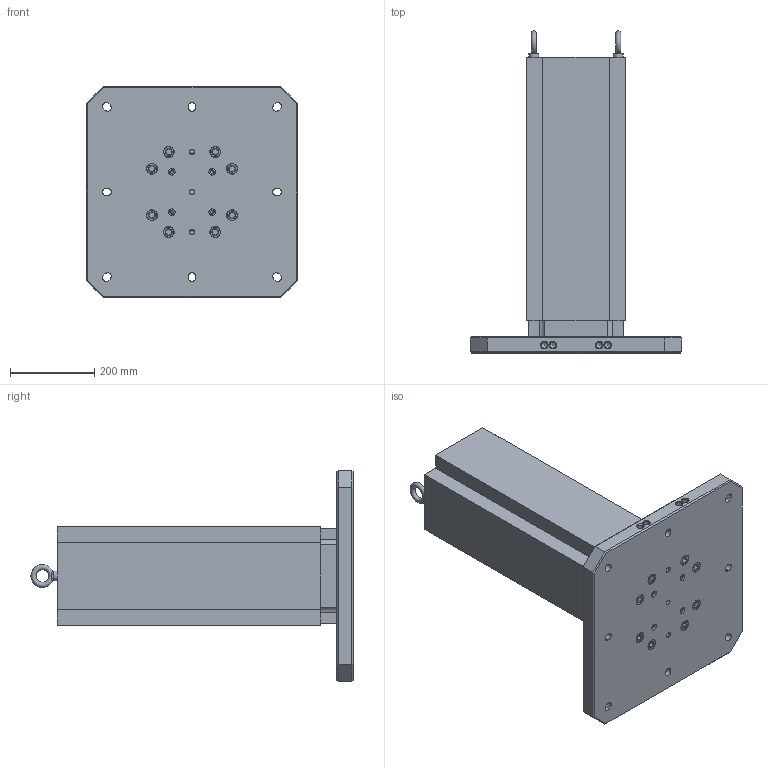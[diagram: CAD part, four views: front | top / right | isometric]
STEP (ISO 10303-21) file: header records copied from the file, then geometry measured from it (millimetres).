
FILE_DESCRIPTION (( 'STEP AP214' ), '1' );
FILE_NAME ('MTA-5004U-700_WEBSITE.step', '2025-08-11T12:57:58', ( '' ), ( '' ), 'SwSTEP 2.0', 'SolidWorks 2024', '' );
FILE_SCHEMA (( 'AUTOMOTIVE_DESIGN' ));
Length unit declared in the file: millimetre
Products named in the file (7): MTA-5004U-700_WEBSITE; M12X24MM.EB (McM 3040T15)_WEBSITE_3040T15; MT-4662A_WEBSITE_MT-4600A; RL96-5004BUA_WEBSITE; RL96-14TC_WEBSITE; HW.76452_dev_WEBSITE_91290A835; HW.76172_WEBSITE
Assembly tree (17 placements, depth 2):
  MTA-5004U-700_WEBSITE
    RL96-5004BUA_WEBSITE
    MT-4662A_WEBSITE_MT-4600A
    RL96-14TC_WEBSITE
    HW.76172_WEBSITE  x4
    M12X24MM.EB (McM 3040T15)_WEBSITE_3040T15  x2
    HW.76452_dev_WEBSITE_91290A835  x8
Bounding box: 500 x 762.85 x 500 mm (x, y, z)
Volume: 30921436.1 mm3; surface area: 1745440.1 mm2
Topology: 17 solids, 17 shells, 591 faces, 1296 edges, 798 vertices
Faces by surface type: plane 313, cylinder 162, cone 114, torus 2
Full cylindrical faces by diameter (mm): 5 x4, 6 x4, 6.6 x4, 8.5 x4, 10 x4, 10.025 x4, 10.2 x4, 11 x4, 12 x3, 14 x13, 16 x8, 16.02 x4, 17.5 x16, 23 x2, 24 x8, 26 x8
Entity records: 11767 total; most frequent: CARTESIAN_POINT 2017, DIRECTION 1914, ORIENTED_EDGE 1602, EDGE_CURVE 801, AXIS2_PLACEMENT_3D 718, EDGE_LOOP 596, VERTEX_POINT 571, VECTOR 478
